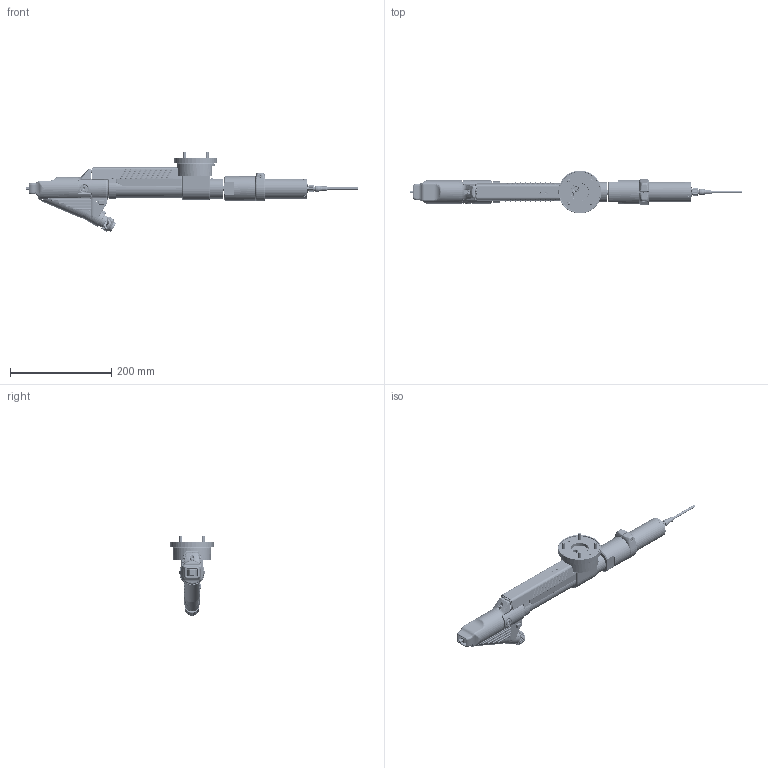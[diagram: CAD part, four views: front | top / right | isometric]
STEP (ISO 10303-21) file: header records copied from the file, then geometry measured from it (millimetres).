
FILE_DESCRIPTION(/* description */ (''),/* implementation_level */ '2;1');
FILE_NAME(/* name */ 'G:\Modelle für Marketing\3D_step_file_HRI_screwdriver_CSX 12.stp',/* time_stamp */ '2017-01-30T07:31:32+01:00',/* author */ ('wolf'),/* organization */ (''),/* preprocessor_version */ 'ST-DEVELOPER v15.2',/* originating_system */ 'Autodesk Inventor 2014',/* authorisation */ '');
FILE_SCHEMA (('AUTOMOTIVE_DESIGN { 1 0 10303 214 3 1 1 }'));
Length unit declared in the file: millimetre
Products named in the file (1): MKT-CSX12
Bounding box: 656.1 x 85 x 158.14 mm (x, y, z)
Volume: 770781.7 mm3; surface area: 381909.3 mm2
Topology: 18 solids, 85 shells, 6012 faces, 15577 edges, 9716 vertices
Faces by surface type: plane 2145, cylinder 1733, bspline 1282, torus 499, cone 234, sphere 119
Full cylindrical faces by diameter (mm): 0.8 x5, 1 x5, 1.2 x2, 1.3 x4, 2 x8, 2.1 x2, 2.459 x6, 2.5 x5, 2.53 x1, 2.6 x1, 2.8 x1, 3 x19, 3.03 x4, 3.04 x3, 3.1 x2, 3.2 x7, 3.242 x6, 3.3 x4, 3.5 x2, 3.58 x2, 3.8 x2, 3.97 x2, 4 x23, 4.1 x3, 4.134 x3, 4.3 x8, 4.5 x8, 4.7 x5, 4.8 x1, 4.917 x6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
Entity records: 303027 total; most frequent: CARTESIAN_POINT 163969, ORIENTED_EDGE 28910, DIRECTION 25027, EDGE_CURVE 14427, AXIS2_PLACEMENT_3D 9801, VERTEX_POINT 9355, EDGE_LOOP 7120, ADVANCED_FACE 5994
